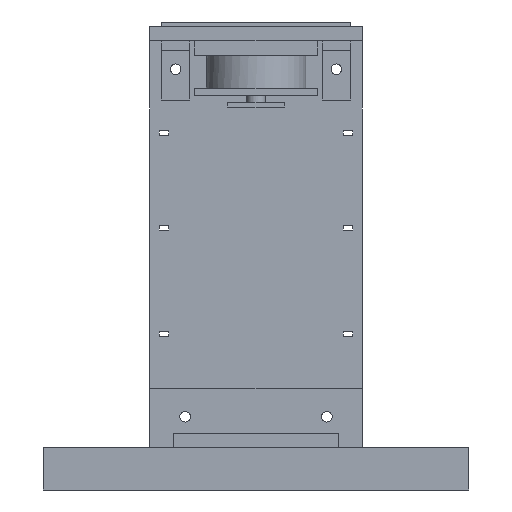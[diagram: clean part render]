
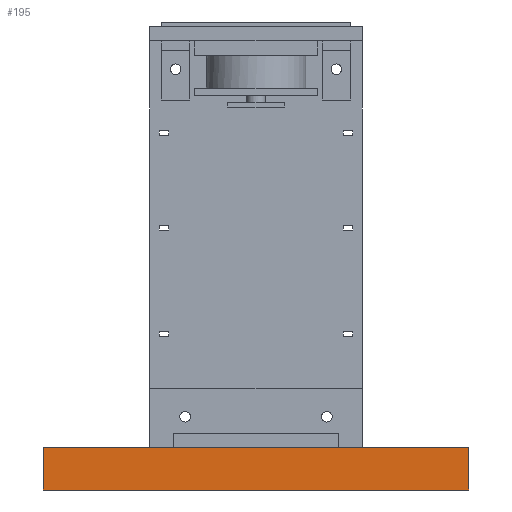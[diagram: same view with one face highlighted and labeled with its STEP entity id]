
A CAD part, front view. The second image highlights one B-rep face of the part: STEP entity #195.
In plain terms, the highlighted planar face has unit normal (0, -1, 0).
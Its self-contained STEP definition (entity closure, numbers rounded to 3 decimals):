
#79 = EDGE_CURVE('',#80,#82,#84,.T.);
#80 = VERTEX_POINT('',#81);
#81 = CARTESIAN_POINT('',(0.,0.,0.));
#82 = VERTEX_POINT('',#83);
#83 = CARTESIAN_POINT('',(0.,0.,18.));
#84 = SURFACE_CURVE('',#85,(#89,#101),.PCURVE_S1.);
#85 = LINE('',#86,#87);
#86 = CARTESIAN_POINT('',(0.,0.,0.));
#87 = VECTOR('',#88,1.);
#88 = DIRECTION('',(0.,0.,1.));
#89 = PCURVE('',#90,#95);
#90 = PLANE('',#91);
#91 = AXIS2_PLACEMENT_3D('',#92,#93,#94);
#92 = CARTESIAN_POINT('',(0.,0.,0.));
#93 = DIRECTION('',(1.,0.,0.));
#94 = DIRECTION('',(0.,0.,1.));
#95 = DEFINITIONAL_REPRESENTATION('',(#96),#100);
#96 = LINE('',#97,#98);
#97 = CARTESIAN_POINT('',(0.,0.));
#98 = VECTOR('',#99,1.);
#99 = DIRECTION('',(1.,0.));
#100 = ( GEOMETRIC_REPRESENTATION_CONTEXT(2) 
PARAMETRIC_REPRESENTATION_CONTEXT() REPRESENTATION_CONTEXT('2D SPACE',''
  ) );
#101 = PCURVE('',#102,#107);
#102 = PLANE('',#103);
#103 = AXIS2_PLACEMENT_3D('',#104,#105,#106);
#104 = CARTESIAN_POINT('',(0.,0.,0.));
#105 = DIRECTION('',(0.,1.,0.));
#106 = DIRECTION('',(0.,0.,1.));
#107 = DEFINITIONAL_REPRESENTATION('',(#108),#112);
#108 = LINE('',#109,#110);
#109 = CARTESIAN_POINT('',(0.,0.));
#110 = VECTOR('',#111,1.);
#111 = DIRECTION('',(1.,0.));
#112 = ( GEOMETRIC_REPRESENTATION_CONTEXT(2) 
PARAMETRIC_REPRESENTATION_CONTEXT() REPRESENTATION_CONTEXT('2D SPACE',''
  ) );
#130 = PLANE('',#131);
#131 = AXIS2_PLACEMENT_3D('',#132,#133,#134);
#132 = CARTESIAN_POINT('',(0.,0.,0.));
#133 = DIRECTION('',(0.,0.,1.));
#134 = DIRECTION('',(1.,0.,0.));
#184 = PLANE('',#185);
#185 = AXIS2_PLACEMENT_3D('',#186,#187,#188);
#186 = CARTESIAN_POINT('',(0.,0.,18.));
#187 = DIRECTION('',(0.,0.,1.));
#188 = DIRECTION('',(1.,0.,0.));
#195 = ADVANCED_FACE('',(#196),#102,.F.);
#196 = FACE_BOUND('',#197,.F.);
#197 = EDGE_LOOP('',(#198,#221,#222,#245));
#198 = ORIENTED_EDGE('',*,*,#199,.F.);
#199 = EDGE_CURVE('',#80,#200,#202,.T.);
#200 = VERTEX_POINT('',#201);
#201 = CARTESIAN_POINT('',(180.,0.,0.));
#202 = SURFACE_CURVE('',#203,(#207,#214),.PCURVE_S1.);
#203 = LINE('',#204,#205);
#204 = CARTESIAN_POINT('',(0.,0.,0.));
#205 = VECTOR('',#206,1.);
#206 = DIRECTION('',(1.,0.,0.));
#207 = PCURVE('',#102,#208);
#208 = DEFINITIONAL_REPRESENTATION('',(#209),#213);
#209 = LINE('',#210,#211);
#210 = CARTESIAN_POINT('',(0.,0.));
#211 = VECTOR('',#212,1.);
#212 = DIRECTION('',(0.,1.));
#213 = ( GEOMETRIC_REPRESENTATION_CONTEXT(2) 
PARAMETRIC_REPRESENTATION_CONTEXT() REPRESENTATION_CONTEXT('2D SPACE',''
  ) );
#214 = PCURVE('',#130,#215);
#215 = DEFINITIONAL_REPRESENTATION('',(#216),#220);
#216 = LINE('',#217,#218);
#217 = CARTESIAN_POINT('',(0.,0.));
#218 = VECTOR('',#219,1.);
#219 = DIRECTION('',(1.,0.));
#220 = ( GEOMETRIC_REPRESENTATION_CONTEXT(2) 
PARAMETRIC_REPRESENTATION_CONTEXT() REPRESENTATION_CONTEXT('2D SPACE',''
  ) );
#221 = ORIENTED_EDGE('',*,*,#79,.T.);
#222 = ORIENTED_EDGE('',*,*,#223,.T.);
#223 = EDGE_CURVE('',#82,#224,#226,.T.);
#224 = VERTEX_POINT('',#225);
#225 = CARTESIAN_POINT('',(180.,0.,18.));
#226 = SURFACE_CURVE('',#227,(#231,#238),.PCURVE_S1.);
#227 = LINE('',#228,#229);
#228 = CARTESIAN_POINT('',(0.,0.,18.));
#229 = VECTOR('',#230,1.);
#230 = DIRECTION('',(1.,0.,0.));
#231 = PCURVE('',#102,#232);
#232 = DEFINITIONAL_REPRESENTATION('',(#233),#237);
#233 = LINE('',#234,#235);
#234 = CARTESIAN_POINT('',(18.,0.));
#235 = VECTOR('',#236,1.);
#236 = DIRECTION('',(0.,1.));
#237 = ( GEOMETRIC_REPRESENTATION_CONTEXT(2) 
PARAMETRIC_REPRESENTATION_CONTEXT() REPRESENTATION_CONTEXT('2D SPACE',''
  ) );
#238 = PCURVE('',#184,#239);
#239 = DEFINITIONAL_REPRESENTATION('',(#240),#244);
#240 = LINE('',#241,#242);
#241 = CARTESIAN_POINT('',(0.,0.));
#242 = VECTOR('',#243,1.);
#243 = DIRECTION('',(1.,0.));
#244 = ( GEOMETRIC_REPRESENTATION_CONTEXT(2) 
PARAMETRIC_REPRESENTATION_CONTEXT() REPRESENTATION_CONTEXT('2D SPACE',''
  ) );
#245 = ORIENTED_EDGE('',*,*,#246,.F.);
#246 = EDGE_CURVE('',#200,#224,#247,.T.);
#247 = SURFACE_CURVE('',#248,(#252,#259),.PCURVE_S1.);
#248 = LINE('',#249,#250);
#249 = CARTESIAN_POINT('',(180.,0.,0.));
#250 = VECTOR('',#251,1.);
#251 = DIRECTION('',(0.,0.,1.));
#252 = PCURVE('',#102,#253);
#253 = DEFINITIONAL_REPRESENTATION('',(#254),#258);
#254 = LINE('',#255,#256);
#255 = CARTESIAN_POINT('',(0.,180.));
#256 = VECTOR('',#257,1.);
#257 = DIRECTION('',(1.,0.));
#258 = ( GEOMETRIC_REPRESENTATION_CONTEXT(2) 
PARAMETRIC_REPRESENTATION_CONTEXT() REPRESENTATION_CONTEXT('2D SPACE',''
  ) );
#259 = PCURVE('',#260,#265);
#260 = PLANE('',#261);
#261 = AXIS2_PLACEMENT_3D('',#262,#263,#264);
#262 = CARTESIAN_POINT('',(180.,0.,0.));
#263 = DIRECTION('',(1.,0.,0.));
#264 = DIRECTION('',(0.,0.,1.));
#265 = DEFINITIONAL_REPRESENTATION('',(#266),#270);
#266 = LINE('',#267,#268);
#267 = CARTESIAN_POINT('',(0.,0.));
#268 = VECTOR('',#269,1.);
#269 = DIRECTION('',(1.,0.));
#270 = ( GEOMETRIC_REPRESENTATION_CONTEXT(2) 
PARAMETRIC_REPRESENTATION_CONTEXT() REPRESENTATION_CONTEXT('2D SPACE',''
  ) );
